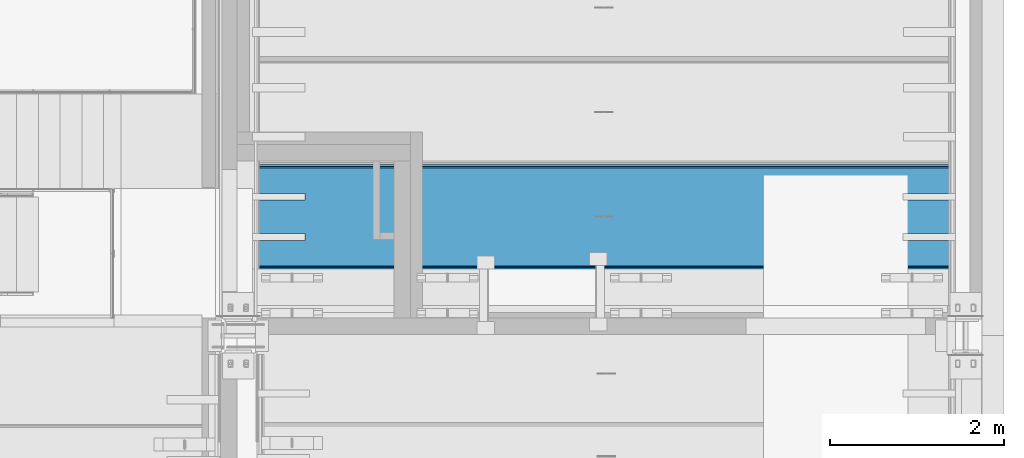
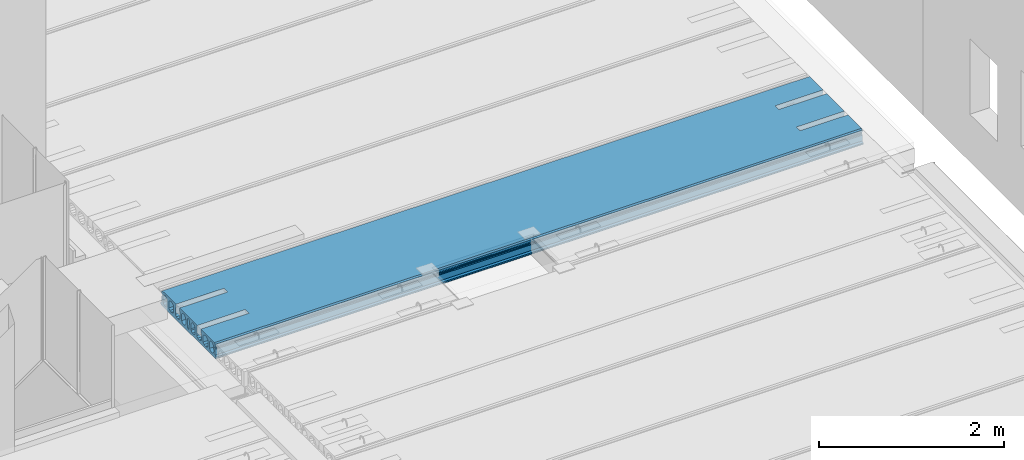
# One storey, part 100 of 230: 1 beam.
"""IFC4X3_ADD2 building model written with IfcOpenShell, lengths in millimetres."""

from ifc_helpers import new_model, si_unit, direction, origin_with_axes, place, context, subcontext, project, spatial, polygons, element, save


model = new_model("IFC4X3_ADD2")

# Units and contexts
model_context = context("Model", 3, precision=1e-05, world=origin_with_axes(), true_north=direction((0.0, 1.0)))
body_context = subcontext(model_context, "Body", "Model", "MODEL_VIEW")
ifc_project = project(units=[si_unit("LENGTHUNIT", "METRE", prefix="MILLI"), si_unit("AREAUNIT", "SQUARE_METRE"), si_unit("VOLUMEUNIT", "CUBIC_METRE"), si_unit("PLANEANGLEUNIT", "RADIAN"), si_unit("TIMEUNIT", "SECOND"), si_unit("MASSUNIT", "GRAM")], contexts=[model_context])

# Site, building, storey
site_placement = place(None, origin_with_axes())
site = spatial("IfcSite", under=ifc_project, at=site_placement, Name="Site", CompositionType="ELEMENT")
building_placement = place(site_placement, origin_with_axes())
building = spatial("IfcBuilding", under=site, at=building_placement, Name="IFC Building Story")
storey_placement = place(building_placement, origin_with_axes())
storey = spatial("IfcBuildingStorey", under=building, at=storey_placement, Name="ETAGE 00 (0)", Elevation=0.0)

# Beam
beam_placement = place(storey_placement, origin_with_axes())
element("IfcBeam", 1, at=beam_placement, inside=storey, Name="HOLLOWCORE SLAB", ObjectType="EB_SPN200", context=body_context, shape_type="Tessellation", body=[
    polygons([(40131.189, 2149.0, 3999.9999909), (40131.189, 971.0, 3999.9999909), (40131.189, 960.0, 4012.9999909), (40131.189, 960.0, 4029.9999909), (40131.189, 980.0, 4044.9999909), (40131.189, 981.450012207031, 4119.9999909), (40131.189, 988.9826214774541, 4128.676139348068), (40131.189, 991.8399300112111, 4139.805000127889), (40131.189, 989.4186364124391, 4151.036789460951), (40131.189, 982.22998046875, 4159.9999909), (40131.189, 982.711296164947, 4185.002769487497), (40131.189, 998.0, 4199.9999909), (40131.189, 1290.0, 4199.9999909), (40131.189, 1290.0, 4159.431439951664), (40131.189, 1277.0, 4148.669989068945), (40131.189, 1277.0, 4059.329992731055), (40131.189, 1299.528044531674, 4040.681189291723), (40131.189, 1328.0, 4033.999990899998), (40131.189, 1356.471955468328, 4040.681189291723), (40131.189, 1379.0, 4059.329992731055), (40131.189, 1379.0, 4148.669989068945), (40131.189, 1370.0, 4156.120224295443), (40131.189, 1370.0, 4199.9999909), (40131.189, 1750.0, 4199.9999909), (40131.189, 1750.0, 4156.120224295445), (40131.189, 1741.0, 4148.669989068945), (40131.189, 1741.0, 4059.329992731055), (40131.189, 1763.528044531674, 4040.681189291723), (40131.189, 1792.0, 4033.999990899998), (40131.189, 1820.471955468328, 4040.681189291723), (40131.189, 1843.0, 4059.329992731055), (40131.189, 1843.0, 4148.669989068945), (40131.189, 1830.0, 4159.431439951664), (40131.189, 1830.0, 4199.9999909), (40131.189, 2122.0, 4199.9999909), (40131.189, 2137.28870383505, 4185.002769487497), (40131.189, 2137.77001953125, 4159.9999909), (40131.189, 2130.58136358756, 4151.036789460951), (40131.189, 2128.16006998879, 4139.805000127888), (40131.189, 2131.01737852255, 4128.676139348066), (40131.189, 2138.54998779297, 4119.9999909), (40131.189, 2140.0, 4044.9999909), (40131.189, 2160.0, 4029.9999909), (40131.189, 2160.0, 4012.9999909), (40131.189, 2105.77841495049, 4132.648626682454), (40131.189, 2105.26233230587, 4134.906764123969), (40131.189, 2104.48861684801, 4137.090085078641), (40131.189, 2103.46764705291, 4139.169302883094), (40131.189, 2090.0, 4162.9999909), (40131.189, 2076.0, 4172.9999909), (40131.189, 2058.96883007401, 4173.755090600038), (40131.189, 2042.41792616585, 4169.66871024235), (40131.189, 2027.69528512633, 4161.073667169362), (40131.189, 2016.0, 4148.669989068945), (40131.189, 2016.0, 4059.329992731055), (40131.189, 2027.69528512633, 4046.926314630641), (40131.189, 2042.41792616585, 4038.331271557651), (40131.189, 2058.96883007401, 4034.244891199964), (40131.189, 2076.0, 4034.9999909), (40131.189, 2087.0, 4040.9999909), (40131.189, 2103.0, 4056.9999909), (40131.189, 2109.0, 4071.9999909), (40131.189, 2106.02994214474, 4130.345962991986), (40131.189, 1930.0, 4173.999990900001), (40131.189, 1901.528044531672, 4167.318792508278), (40131.189, 1879.0, 4148.669989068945), (40131.189, 1879.0, 4059.329992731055), (40131.189, 1901.528044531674, 4040.681189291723), (40131.189, 1930.0, 4033.999990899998), (40131.189, 1958.471955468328, 4040.681189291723), (40131.189, 1981.0, 4059.329992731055), (40131.189, 1981.0, 4148.669989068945), (40131.189, 1958.471955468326, 4167.318792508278), (40131.189, 1678.582073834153, 4169.66871024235), (40131.189, 1662.03116992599, 4173.755090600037), (40131.189, 1645.0, 4172.9999909), (40131.189, 1631.0, 4162.9999909), (40131.189, 1617.532337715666, 4139.169310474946), (40131.189, 1616.511364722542, 4137.090088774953), (40131.189, 1615.737647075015, 4134.906763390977), (40131.189, 1615.22156332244, 4132.648621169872), (40131.189, 1614.970036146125, 4130.345952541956), (40131.189, 1612.0, 4071.9999909), (40131.189, 1618.0, 4056.9999909), (40131.189, 1634.0, 4040.9999909), (40131.189, 1645.0, 4034.9999909), (40131.189, 1662.03116992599, 4034.244891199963), (40131.189, 1678.582073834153, 4038.33127155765), (40131.189, 1693.304714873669, 4046.926314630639), (40131.189, 1705.0, 4059.329992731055), (40131.189, 1705.0, 4148.669989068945), (40131.189, 1693.304714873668, 4161.073667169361), (40131.189, 1576.475445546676, 4166.831645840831), (40131.189, 1568.99957645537, 4172.130025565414), (40131.189, 1559.970634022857, 4173.9999909), (40131.189, 1551.00042354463, 4172.130025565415), (40131.189, 1543.524554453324, 4166.831645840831), (40131.189, 1538.788426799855, 4158.987505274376), (40131.189, 1537.581028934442, 4149.904354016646), (40131.189, 1545.081721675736, 4047.854121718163), (40131.189, 1546.515060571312, 4042.477896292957), (40131.189, 1549.815077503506, 4037.998147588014), (40131.189, 1554.524673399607, 4035.035384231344), (40131.189, 1560.008497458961, 4033.9999909), (40131.189, 1565.475326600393, 4035.035384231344), (40131.189, 1570.184922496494, 4037.998147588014), (40131.189, 1573.484939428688, 4042.477896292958), (40131.189, 1574.918278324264, 4047.854121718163), (40131.189, 1582.418971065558, 4149.904354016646), (40131.189, 1581.211573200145, 4158.987505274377), (40131.189, 1504.77843667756, 4132.648621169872), (40131.189, 1504.262352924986, 4134.906763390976), (40131.189, 1503.488635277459, 4137.090088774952), (40131.189, 1502.467662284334, 4139.169310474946), (40131.189, 1489.0, 4162.9999909), (40131.189, 1475.0, 4172.9999909), (40131.189, 1457.96883007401, 4173.755090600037), (40131.189, 1441.417926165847, 4169.66871024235), (40131.189, 1426.695285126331, 4161.073667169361), (40131.189, 1415.0, 4148.669989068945), (40131.189, 1415.0, 4059.329992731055), (40131.189, 1426.695285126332, 4046.926314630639), (40131.189, 1441.417926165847, 4038.331271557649), (40131.189, 1457.96883007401, 4034.244891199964), (40131.189, 1475.0, 4034.9999909), (40131.189, 1486.0, 4040.9999909), (40131.189, 1502.0, 4056.9999909), (40131.189, 1508.0, 4071.999990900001), (40131.189, 1505.029963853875, 4130.345952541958), (40131.189, 1190.0, 4173.999990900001), (40131.189, 1161.528044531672, 4167.318792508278), (40131.189, 1139.0, 4148.669989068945), (40131.189, 1139.0, 4059.329992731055), (40131.189, 1161.528044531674, 4040.681189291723), (40131.189, 1190.0, 4033.999990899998), (40131.189, 1218.471955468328, 4040.681189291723), (40131.189, 1241.0, 4059.329992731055), (40131.189, 1241.0, 4148.669989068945), (40131.189, 1218.471955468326, 4167.318792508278), (40131.189, 1077.582073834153, 4169.668710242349), (40131.189, 1061.03116992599, 4173.755090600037), (40131.189, 1044.0, 4172.9999909), (40131.189, 1030.0, 4162.9999909), (40131.189, 1016.532352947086, 4139.169302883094), (40131.189, 1015.511383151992, 4137.090085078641), (40131.189, 1014.737667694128, 4134.906764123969), (40131.189, 1014.221585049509, 4132.648626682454), (40131.189, 1013.970057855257, 4130.345962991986), (40131.189, 1011.0, 4071.9999909), (40131.189, 1017.0, 4056.9999909), (40131.189, 1033.0, 4040.9999909), (40131.189, 1044.0, 4034.9999909), (40131.189, 1061.03116992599, 4034.244891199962), (40131.189, 1077.582073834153, 4038.331271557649), (40131.189, 1092.304714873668, 4046.926314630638), (40131.189, 1104.0, 4059.329992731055), (40131.189, 1104.0, 4148.669989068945), (40131.189, 1092.304714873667, 4161.073667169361), (48195.68900000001, 2149.0, 3999.9999909), (48195.68900000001, 2160.0, 4012.9999909), (48195.68900000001, 2160.0, 4029.9999909), (48195.68900000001, 2140.0, 4044.9999909), (48195.68900000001, 2138.54998779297, 4119.9999909), (48195.68900000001, 2131.01737852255, 4128.676139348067), (48195.68900000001, 2128.16006998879, 4139.805000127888), (48195.68900000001, 2130.58136358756, 4151.036789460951), (48195.68900000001, 2137.77001953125, 4159.9999909), (48195.68900000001, 2137.28870383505, 4185.002769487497), (48195.68900000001, 2122.0, 4199.9999909), (48195.68900000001, 1830.0, 4199.9999909), (48195.68900000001, 1830.0, 4159.431439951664), (48195.68900000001, 1843.0, 4148.669989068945), (48195.68900000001, 1843.0, 4059.329992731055), (48195.68900000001, 1820.471955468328, 4040.681189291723), (48195.68900000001, 1792.0, 4033.999990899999), (48195.68900000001, 1763.528044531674, 4040.681189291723), (48195.68900000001, 1741.0, 4059.329992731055), (48195.68900000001, 1741.0, 4148.669989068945), (48195.68900000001, 1750.0, 4156.120224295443), (48195.68900000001, 1750.0, 4199.9999909), (48195.68900000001, 1370.0, 4199.9999909), (48195.68900000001, 1370.0, 4156.120224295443), (48195.68900000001, 1379.0, 4148.669989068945), (48195.68900000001, 1379.0, 4059.329992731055), (48195.68900000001, 1356.471955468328, 4040.681189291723), (48195.68900000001, 1328.0, 4033.999990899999), (48195.68900000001, 1299.528044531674, 4040.681189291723), (48195.68900000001, 1277.0, 4059.329992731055), (48195.68900000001, 1277.0, 4148.669989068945), (48195.68900000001, 1290.0, 4159.431439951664), (48195.68900000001, 1290.0, 4199.9999909), (48195.68900000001, 998.0, 4199.9999909), (48195.68900000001, 982.7112961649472, 4185.002769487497), (48195.68900000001, 982.22998046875, 4159.9999909), (48195.68900000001, 989.4186364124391, 4151.036789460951), (48195.68900000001, 991.8399300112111, 4139.805000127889), (48195.68900000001, 988.9826214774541, 4128.676139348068), (48195.68900000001, 981.4500122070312, 4119.9999909), (48195.68900000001, 980.0, 4044.9999909), (48195.68900000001, 960.0, 4029.9999909), (48195.68900000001, 960.0, 4012.9999909), (48195.68900000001, 971.0, 3999.9999909), (48195.68900000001, 2105.77841495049, 4132.648626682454), (48195.68900000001, 2106.02994214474, 4130.345962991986), (48195.68900000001, 2109.0, 4071.9999909), (48195.68900000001, 2103.0, 4056.9999909), (48195.68900000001, 2087.0, 4040.9999909), (48195.68900000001, 2076.0, 4034.9999909), (48195.68900000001, 2058.96883007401, 4034.244891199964), (48195.68900000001, 2042.41792616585, 4038.331271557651), (48195.68900000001, 2027.69528512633, 4046.926314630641), (48195.68900000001, 2016.0, 4059.329992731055), (48195.68900000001, 2016.0, 4148.669989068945), (48195.68900000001, 2027.69528512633, 4161.073667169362), (48195.68900000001, 2042.41792616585, 4169.66871024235), (48195.68900000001, 2058.96883007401, 4173.755090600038), (48195.68900000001, 2076.0, 4172.9999909), (48195.68900000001, 2090.0, 4162.9999909), (48195.68900000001, 2103.46764705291, 4139.169302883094), (48195.68900000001, 2104.48861684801, 4137.090085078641), (48195.68900000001, 2105.26233230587, 4134.906764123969), (48195.68900000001, 1930.0, 4173.999990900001), (48195.68900000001, 1958.471955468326, 4167.318792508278), (48195.68900000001, 1981.0, 4148.669989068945), (48195.68900000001, 1981.0, 4059.329992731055), (48195.68900000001, 1958.471955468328, 4040.681189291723), (48195.68900000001, 1930.0, 4033.999990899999), (48195.68900000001, 1901.528044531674, 4040.681189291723), (48195.68900000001, 1879.0, 4059.329992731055), (48195.68900000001, 1879.0, 4148.669989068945), (48195.68900000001, 1901.528044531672, 4167.318792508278), (48195.68900000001, 1678.582073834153, 4169.66871024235), (48195.68900000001, 1693.304714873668, 4161.073667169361), (48195.68900000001, 1705.0, 4148.669989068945), (48195.68900000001, 1705.0, 4059.329992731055), (48195.68900000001, 1693.304714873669, 4046.926314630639), (48195.68900000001, 1678.582073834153, 4038.33127155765), (48195.68900000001, 1662.03116992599, 4034.244891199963), (48195.68900000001, 1645.0, 4034.9999909), (48195.68900000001, 1634.0, 4040.9999909), (48195.68900000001, 1618.0, 4056.9999909), (48195.68900000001, 1612.0, 4071.9999909), (48195.68900000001, 1614.970036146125, 4130.345952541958), (48195.68900000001, 1615.22156332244, 4132.648621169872), (48195.68900000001, 1615.737647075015, 4134.906763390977), (48195.68900000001, 1616.511364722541, 4137.090088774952), (48195.68900000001, 1617.532337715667, 4139.169310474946), (48195.68900000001, 1631.0, 4162.9999909), (48195.68900000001, 1645.0, 4172.9999909), (48195.68900000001, 1662.03116992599, 4173.755090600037), (48195.68900000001, 1576.475445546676, 4166.831645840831), (48195.68900000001, 1581.211573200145, 4158.987505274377), (48195.68900000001, 1582.418971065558, 4149.904354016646), (48195.68900000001, 1574.918278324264, 4047.854121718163), (48195.68900000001, 1573.484939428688, 4042.477896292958), (48195.68900000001, 1570.184922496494, 4037.998147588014), (48195.68900000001, 1565.475326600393, 4035.035384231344), (48195.68900000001, 1560.008497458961, 4033.9999909), (48195.68900000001, 1554.524673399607, 4035.035384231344), (48195.68900000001, 1549.815077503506, 4037.998147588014), (48195.68900000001, 1546.515060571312, 4042.477896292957), (48195.68900000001, 1545.081721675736, 4047.854121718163), (48195.68900000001, 1537.581028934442, 4149.904354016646), (48195.68900000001, 1538.788426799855, 4158.987505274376), (48195.68900000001, 1543.524554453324, 4166.831645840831), (48195.68900000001, 1551.00042354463, 4172.130025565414), (48195.68900000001, 1559.970634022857, 4173.9999909), (48195.68900000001, 1568.99957645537, 4172.130025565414), (48195.68900000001, 1504.77843667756, 4132.648621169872), (48195.68900000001, 1505.029963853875, 4130.345952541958), (48195.68900000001, 1508.0, 4071.9999909), (48195.68900000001, 1502.0, 4056.9999909), (48195.68900000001, 1486.0, 4040.9999909), (48195.68900000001, 1475.0, 4034.9999909), (48195.68900000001, 1457.96883007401, 4034.244891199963), (48195.68900000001, 1441.417926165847, 4038.33127155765), (48195.68900000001, 1426.695285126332, 4046.926314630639), (48195.68900000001, 1415.0, 4059.329992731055), (48195.68900000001, 1415.0, 4148.669989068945), (48195.68900000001, 1426.695285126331, 4161.073667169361), (48195.68900000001, 1441.417926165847, 4169.66871024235), (48195.68900000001, 1457.96883007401, 4173.755090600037), (48195.68900000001, 1475.0, 4172.9999909), (48195.68900000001, 1489.0, 4162.9999909), (48195.68900000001, 1502.467662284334, 4139.169310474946), (48195.68900000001, 1503.488635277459, 4137.090088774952), (48195.68900000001, 1504.262352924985, 4134.906763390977), (48195.68900000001, 1190.0, 4173.999990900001), (48195.68900000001, 1218.471955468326, 4167.318792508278), (48195.68900000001, 1241.0, 4148.669989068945), (48195.68900000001, 1241.0, 4059.329992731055), (48195.68900000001, 1218.471955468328, 4040.681189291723), (48195.68900000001, 1190.0, 4033.999990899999), (48195.68900000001, 1161.528044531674, 4040.681189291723), (48195.68900000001, 1139.0, 4059.329992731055), (48195.68900000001, 1139.0, 4148.669989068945), (48195.68900000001, 1161.528044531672, 4167.318792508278), (48195.68900000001, 1077.582073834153, 4169.668710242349), (48195.68900000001, 1092.304714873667, 4161.073667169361), (48195.68900000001, 1104.0, 4148.669989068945), (48195.68900000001, 1104.0, 4059.329992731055), (48195.68900000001, 1092.304714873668, 4046.926314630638), (48195.68900000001, 1077.582073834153, 4038.331271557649), (48195.68900000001, 1061.03116992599, 4034.244891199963), (48195.68900000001, 1044.0, 4034.9999909), (48195.68900000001, 1033.0, 4040.9999909), (48195.68900000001, 1017.0, 4056.9999909), (48195.68900000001, 1011.0, 4071.9999909), (48195.68900000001, 1013.970057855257, 4130.345962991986), (48195.68900000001, 1014.221585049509, 4132.648626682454), (48195.68900000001, 1014.737667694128, 4134.906764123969), (48195.68900000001, 1015.511383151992, 4137.090085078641), (48195.68900000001, 1016.532352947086, 4139.169302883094), (48195.68900000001, 1030.0, 4162.9999909), (48195.68900000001, 1044.0, 4172.9999909), (48195.68900000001, 1061.03116992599, 4173.755090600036), (40731.189, 1830.0, 4199.9999909), (40731.189, 1750.0, 4199.9999909), (40731.189, 1370.0, 4199.9999909), (40731.189, 1290.0, 4199.9999909), (47595.68900000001, 1290.0, 4199.9999909), (47595.68900000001, 1370.0, 4199.9999909), (47595.68900000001, 1750.0, 4199.9999909), (47595.68900000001, 1830.0, 4199.9999909), (40731.189, 1763.528044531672, 4167.318792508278), (40731.189, 1791.999999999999, 4173.999990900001), (47595.68900000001, 1791.999999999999, 4173.999990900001), (47595.68900000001, 1763.528044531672, 4167.318792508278), (40731.189, 1750.0, 4156.120224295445), (47595.68900000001, 1750.0, 4156.120224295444), (47595.68900000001, 1830.0, 4159.431439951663), (47595.68900000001, 1820.471955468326, 4167.318792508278), (40731.189, 1820.471955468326, 4167.318792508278), (40731.189, 1830.0, 4159.431439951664), (47595.68900000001, 1327.999999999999, 4173.999990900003), (47595.68900000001, 1299.528044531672, 4167.318792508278), (40731.189, 1299.528044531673, 4167.318792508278), (40731.189, 1327.999999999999, 4173.999990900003), (40731.189, 1290.0, 4159.431439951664), (47595.68900000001, 1290.0, 4159.431439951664), (47595.68900000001, 1370.0, 4156.120224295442), (47595.68900000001, 1356.471955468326, 4167.318792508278), (40731.189, 1356.471955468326, 4167.318792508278), (40731.189, 1370.0, 4156.120224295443), (40731.189, 1750.0, 4199.999996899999), (40731.189, 1830.0, 4199.999996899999), (47595.68900000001, 1830.0, 4199.999996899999), (47595.68900000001, 1750.0, 4199.999996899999), (47595.68900000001, 1370.0, 4199.999996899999), (47595.68900000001, 1290.0, 4199.999996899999), (40731.189, 1290.0, 4199.999996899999), (40731.189, 1370.0, 4199.999996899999)], [[[139, 130, 13]], [[13, 138, 139]], [[16, 17, 137]], [[137, 138, 15]], [[137, 15, 16]], [[138, 13, 14]], [[138, 14, 15]], [[17, 136, 137]], [[21, 22, 23]], [[122, 123, 20]], [[20, 121, 122]], [[21, 23, 120]], [[120, 121, 20]], [[120, 20, 21]], [[23, 119, 120]], [[23, 118, 119]], [[23, 117, 118]], [[23, 116, 117]], [[23, 98, 116]], [[98, 115, 116]], [[98, 99, 114]], [[98, 114, 115]], [[99, 113, 114]], [[99, 112, 113]], [[99, 111, 112]], [[23, 97, 98]], [[23, 96, 97]], [[23, 95, 96]], [[95, 23, 24]], [[24, 94, 95]], [[24, 93, 94]], [[123, 19, 20]], [[129, 111, 99]], [[99, 100, 128]], [[99, 128, 129]], [[100, 127, 128]], [[101, 102, 126]], [[126, 127, 100]], [[126, 100, 101]], [[110, 93, 24]], [[76, 77, 109]], [[76, 109, 110]], [[76, 110, 24]], [[24, 75, 76]], [[24, 74, 75]], [[84, 85, 108]], [[108, 83, 84]], [[108, 109, 82]], [[108, 82, 83]], [[109, 81, 82]], [[109, 80, 81]], [[109, 79, 80]], [[109, 78, 79]], [[109, 77, 78]], [[85, 107, 108]], [[92, 74, 24]], [[24, 91, 92]], [[27, 28, 90]], [[90, 91, 26]], [[90, 26, 27]], [[91, 24, 25]], [[91, 25, 26]], [[28, 89, 90]], [[32, 33, 34]], [[32, 34, 66]], [[66, 67, 31]], [[66, 31, 32]], [[34, 65, 66]], [[34, 64, 65]], [[73, 64, 34]], [[73, 34, 35]], [[35, 72, 73]], [[63, 45, 39]], [[40, 41, 42]], [[40, 42, 62]], [[40, 62, 63]], [[63, 39, 40]], [[42, 61, 62]], [[42, 43, 44]], [[42, 44, 1]], [[42, 1, 60]], [[42, 60, 61]], [[1, 59, 60]], [[1, 58, 59]], [[1, 57, 58]], [[1, 71, 57]], [[71, 56, 57]], [[71, 55, 56]], [[71, 72, 54]], [[71, 54, 55]], [[72, 53, 54]], [[72, 52, 53]], [[52, 72, 35]], [[35, 51, 52]], [[35, 50, 51]], [[35, 49, 50]], [[35, 38, 48]], [[35, 48, 49]], [[38, 39, 47]], [[38, 47, 48]], [[39, 46, 47]], [[39, 45, 46]], [[35, 36, 37]], [[35, 37, 38]], [[1, 70, 71]], [[1, 69, 70]], [[1, 30, 69]], [[30, 68, 69]], [[30, 31, 67]], [[30, 67, 68]], [[1, 29, 30]], [[1, 88, 29]], [[88, 89, 28]], [[88, 28, 29]], [[1, 87, 88]], [[1, 86, 87]], [[1, 106, 86]], [[106, 107, 85]], [[106, 85, 86]], [[1, 105, 106]], [[1, 104, 105]], [[1, 125, 104]], [[125, 103, 104]], [[125, 126, 102]], [[125, 102, 103]], [[1, 124, 125]], [[1, 18, 124]], [[18, 19, 123]], [[18, 123, 124]], [[1, 135, 18]], [[135, 136, 17]], [[135, 17, 18]], [[1, 2, 135]], [[2, 134, 135]], [[2, 133, 134]], [[9, 10, 11]], [[9, 11, 12]], [[143, 144, 8]], [[143, 8, 9]], [[143, 9, 12]], [[12, 142, 143]], [[12, 141, 142]], [[12, 140, 141]], [[147, 148, 7]], [[147, 7, 8]], [[8, 146, 147]], [[8, 145, 146]], [[8, 144, 145]], [[149, 150, 5]], [[5, 6, 7]], [[5, 7, 148]], [[5, 148, 149]], [[140, 12, 132]], [[132, 158, 140]], [[132, 157, 158]], [[132, 133, 156]], [[132, 156, 157]], [[133, 155, 156]], [[133, 154, 155]], [[154, 133, 2]], [[2, 153, 154]], [[2, 152, 153]], [[2, 151, 152]], [[2, 5, 150]], [[2, 150, 151]], [[2, 3, 4]], [[2, 4, 5]], [[12, 131, 132]], [[12, 130, 131]], [[12, 13, 130]], [[199, 200, 201]], [[199, 201, 202]], [[164, 165, 203]], [[164, 203, 204]], [[205, 206, 162]], [[162, 163, 164]], [[162, 164, 204]], [[162, 204, 205]], [[221, 203, 165]], [[165, 220, 221]], [[165, 166, 219]], [[165, 219, 220]], [[166, 167, 168]], [[166, 168, 169]], [[166, 169, 218]], [[166, 218, 219]], [[169, 217, 218]], [[169, 216, 217]], [[169, 215, 216]], [[215, 169, 170]], [[170, 214, 215]], [[225, 226, 212]], [[213, 214, 224]], [[224, 225, 212]], [[224, 212, 213]], [[214, 223, 224]], [[214, 222, 223]], [[214, 170, 222]], [[226, 211, 212]], [[226, 210, 211]], [[231, 222, 170]], [[170, 230, 231]], [[173, 174, 229]], [[229, 230, 172]], [[229, 172, 173]], [[230, 170, 171]], [[230, 171, 172]], [[174, 228, 229]], [[178, 179, 180]], [[236, 237, 177]], [[177, 235, 236]], [[178, 180, 234]], [[234, 235, 177]], [[234, 177, 178]], [[180, 233, 234]], [[180, 232, 233]], [[237, 176, 177]], [[250, 232, 180]], [[180, 249, 250]], [[180, 251, 249]], [[251, 248, 249]], [[252, 253, 247]], [[252, 247, 248]], [[248, 251, 252]], [[253, 246, 247]], [[253, 245, 246]], [[253, 244, 245]], [[253, 243, 244]], [[253, 254, 242]], [[253, 242, 243]], [[254, 241, 242]], [[255, 256, 240]], [[240, 241, 254]], [[240, 254, 255]], [[272, 273, 262]], [[262, 271, 272]], [[262, 263, 270]], [[262, 270, 271]], [[263, 269, 270]], [[273, 261, 262]], [[287, 269, 263]], [[263, 286, 287]], [[263, 264, 285]], [[263, 285, 286]], [[264, 284, 285]], [[264, 283, 284]], [[268, 251, 180]], [[180, 267, 268]], [[180, 181, 267]], [[181, 266, 267]], [[181, 265, 266]], [[283, 264, 265]], [[265, 181, 283]], [[181, 282, 283]], [[181, 281, 282]], [[181, 280, 281]], [[181, 279, 280]], [[184, 185, 278]], [[278, 279, 183]], [[278, 183, 184]], [[279, 181, 182]], [[279, 182, 183]], [[185, 277, 278]], [[189, 190, 191]], [[189, 191, 290]], [[290, 291, 188]], [[290, 188, 189]], [[191, 289, 290]], [[191, 288, 289]], [[297, 288, 191]], [[297, 191, 192]], [[192, 296, 297]], [[308, 309, 197]], [[308, 197, 198]], [[308, 198, 199]], [[199, 307, 308]], [[199, 202, 306]], [[199, 306, 307]], [[202, 305, 306]], [[202, 304, 305]], [[202, 303, 304]], [[202, 295, 303]], [[295, 302, 303]], [[295, 301, 302]], [[295, 296, 300]], [[295, 300, 301]], [[296, 299, 300]], [[296, 298, 299]], [[296, 192, 298]], [[202, 294, 295]], [[202, 293, 294]], [[202, 187, 293]], [[187, 292, 293]], [[187, 188, 291]], [[187, 291, 292]], [[202, 186, 187]], [[202, 276, 186]], [[276, 277, 185]], [[276, 185, 186]], [[202, 275, 276]], [[202, 274, 275]], [[202, 260, 274]], [[260, 261, 273]], [[260, 273, 274]], [[202, 259, 260]], [[202, 258, 259]], [[202, 239, 258]], [[239, 257, 258]], [[239, 240, 256]], [[239, 256, 257]], [[202, 238, 239]], [[202, 175, 238]], [[175, 176, 237]], [[175, 237, 238]], [[202, 227, 175]], [[227, 228, 174]], [[227, 174, 175]], [[202, 159, 227]], [[159, 210, 226]], [[159, 226, 227]], [[159, 209, 210]], [[159, 208, 209]], [[159, 207, 208]], [[159, 162, 206]], [[159, 206, 207]], [[159, 160, 161]], [[159, 161, 162]], [[312, 313, 196]], [[196, 311, 312]], [[196, 310, 311]], [[196, 197, 309]], [[196, 309, 310]], [[316, 298, 192]], [[192, 315, 316]], [[192, 314, 315]], [[192, 195, 196]], [[192, 196, 313]], [[192, 313, 314]], [[192, 193, 194]], [[192, 194, 195]], [[2, 1, 159, 202]], [[3, 2, 202, 201]], [[4, 3, 201, 200]], [[5, 4, 200, 199]], [[6, 5, 199, 198]], [[7, 6, 198, 197]], [[8, 7, 197, 196]], [[9, 8, 196, 195]], [[10, 9, 195, 194]], [[11, 10, 194, 193]], [[12, 11, 193, 192]], [[318, 24, 23]], [[318, 23, 319]], [[320, 13, 12]], [[320, 12, 192]], [[192, 319, 320]], [[318, 319, 192]], [[192, 317, 318]], [[322, 181, 180]], [[322, 180, 323]], [[324, 170, 169]], [[324, 169, 35]], [[35, 323, 324]], [[322, 323, 35]], [[35, 321, 322]], [[35, 317, 192]], [[35, 192, 321]], [[192, 191, 321]], [[35, 34, 317]], [[36, 35, 169, 168]], [[37, 36, 168, 167]], [[38, 37, 167, 166]], [[39, 38, 166, 165]], [[40, 39, 165, 164]], [[41, 40, 164, 163]], [[42, 41, 163, 162]], [[43, 42, 162, 161]], [[44, 43, 161, 160]], [[1, 44, 160, 159]], [[46, 45, 203, 221]], [[47, 46, 221, 220]], [[48, 47, 220, 219]], [[49, 48, 219, 218]], [[50, 49, 218, 217]], [[51, 50, 217, 216]], [[52, 51, 216, 215]], [[53, 52, 215, 214]], [[54, 53, 214, 213]], [[55, 54, 213, 212]], [[56, 55, 212, 211]], [[57, 56, 211, 210]], [[58, 57, 210, 209]], [[59, 58, 209, 208]], [[60, 59, 208, 207]], [[61, 60, 207, 206]], [[62, 61, 206, 205]], [[63, 62, 205, 204]], [[45, 63, 204, 203]], [[65, 64, 222, 231]], [[66, 65, 231, 230]], [[67, 66, 230, 229]], [[68, 67, 229, 228]], [[69, 68, 228, 227]], [[70, 69, 227, 226]], [[71, 70, 226, 225]], [[72, 71, 225, 224]], [[73, 72, 224, 223]], [[64, 73, 223, 222]], [[325, 326, 327, 328]], [[330, 179, 178]], [[330, 178, 329]], [[329, 325, 328]], [[329, 328, 330]], [[178, 26, 329]], [[26, 25, 329]], [[27, 26, 178, 177]], [[28, 27, 177, 176]], [[29, 28, 176, 175]], [[30, 29, 175, 174]], [[31, 30, 174, 173]], [[32, 31, 173, 172]], [[331, 332, 333]], [[334, 33, 32]], [[334, 32, 331]], [[331, 333, 334]], [[32, 172, 331]], [[172, 171, 331]], [[327, 326, 333, 332]], [[75, 74, 232, 250]], [[76, 75, 250, 249]], [[77, 76, 249, 248]], [[78, 77, 248, 247]], [[79, 78, 247, 246]], [[80, 79, 246, 245]], [[81, 80, 245, 244]], [[82, 81, 244, 243]], [[83, 82, 243, 242]], [[84, 83, 242, 241]], [[85, 84, 241, 240]], [[86, 85, 240, 239]], [[87, 86, 239, 238]], [[88, 87, 238, 237]], [[89, 88, 237, 236]], [[90, 89, 236, 235]], [[91, 90, 235, 234]], [[92, 91, 234, 233]], [[74, 92, 233, 232]], [[94, 93, 251, 268]], [[95, 94, 268, 267]], [[96, 95, 267, 266]], [[97, 96, 266, 265]], [[98, 97, 265, 264]], [[99, 98, 264, 263]], [[100, 99, 263, 262]], [[101, 100, 262, 261]], [[102, 101, 261, 260]], [[103, 102, 260, 259]], [[104, 103, 259, 258]], [[105, 104, 258, 257]], [[106, 105, 257, 256]], [[107, 106, 256, 255]], [[108, 107, 255, 254]], [[109, 108, 254, 253]], [[110, 109, 253, 252]], [[93, 110, 252, 251]], [[112, 111, 269, 287]], [[113, 112, 287, 286]], [[114, 113, 286, 285]], [[115, 114, 285, 284]], [[116, 115, 284, 283]], [[117, 116, 283, 282]], [[118, 117, 282, 281]], [[119, 118, 281, 280]], [[120, 119, 280, 279]], [[121, 120, 279, 278]], [[122, 121, 278, 277]], [[123, 122, 277, 276]], [[124, 123, 276, 275]], [[125, 124, 275, 274]], [[126, 125, 274, 273]], [[127, 126, 273, 272]], [[128, 127, 272, 271]], [[129, 128, 271, 270]], [[111, 129, 270, 269]], [[335, 336, 337, 338]], [[339, 337, 336]], [[340, 190, 189]], [[340, 189, 339]], [[339, 336, 340]], [[189, 15, 339]], [[15, 14, 339]], [[16, 15, 189, 188]], [[17, 16, 188, 187]], [[18, 17, 187, 186]], [[19, 18, 186, 185]], [[20, 19, 185, 184]], [[21, 20, 184, 183]], [[344, 22, 21]], [[344, 21, 341]], [[341, 342, 343]], [[341, 343, 344]], [[21, 183, 341]], [[183, 182, 341]], [[342, 335, 338, 343]], [[131, 130, 288, 297]], [[132, 131, 297, 296]], [[133, 132, 296, 295]], [[134, 133, 295, 294]], [[135, 134, 294, 293]], [[136, 135, 293, 292]], [[137, 136, 292, 291]], [[138, 137, 291, 290]], [[139, 138, 290, 289]], [[130, 139, 289, 288]], [[141, 140, 298, 316]], [[142, 141, 316, 315]], [[143, 142, 315, 314]], [[144, 143, 314, 313]], [[145, 144, 313, 312]], [[146, 145, 312, 311]], [[147, 146, 311, 310]], [[148, 147, 310, 309]], [[149, 148, 309, 308]], [[150, 149, 308, 307]], [[151, 150, 307, 306]], [[152, 151, 306, 305]], [[153, 152, 305, 304]], [[154, 153, 304, 303]], [[155, 154, 303, 302]], [[156, 155, 302, 301]], [[157, 156, 301, 300]], [[158, 157, 300, 299]], [[140, 158, 299, 298]], [[34, 33, 334, 317]], [[25, 24, 345, 329]], [[325, 329, 318]], [[318, 346, 326]], [[318, 326, 325]], [[346, 333, 326]], [[346, 334, 333]], [[180, 179, 330, 323]], [[171, 170, 347, 331]], [[332, 331, 324]], [[324, 327, 332]], [[324, 348, 328]], [[324, 328, 327]], [[348, 330, 328]], [[191, 190, 340, 321]], [[182, 181, 349, 341]], [[342, 341, 322]], [[322, 350, 335]], [[322, 335, 342]], [[350, 336, 335]], [[350, 340, 336]], [[344, 319, 23, 22]], [[351, 339, 14, 13]], [[337, 339, 320]], [[320, 338, 337]], [[320, 352, 343]], [[320, 343, 338]], [[352, 344, 343]]]),
])

save(model, "model.ifc")
